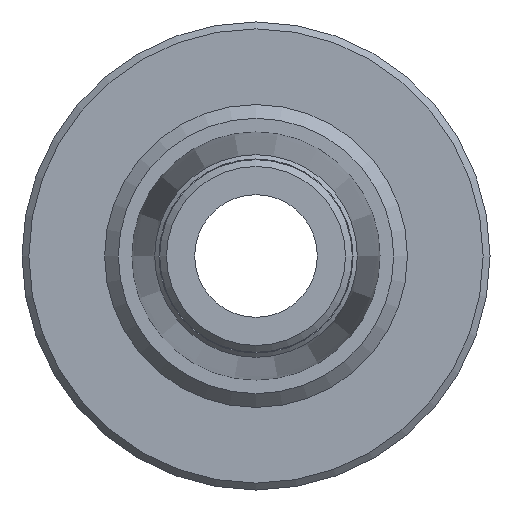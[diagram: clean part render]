
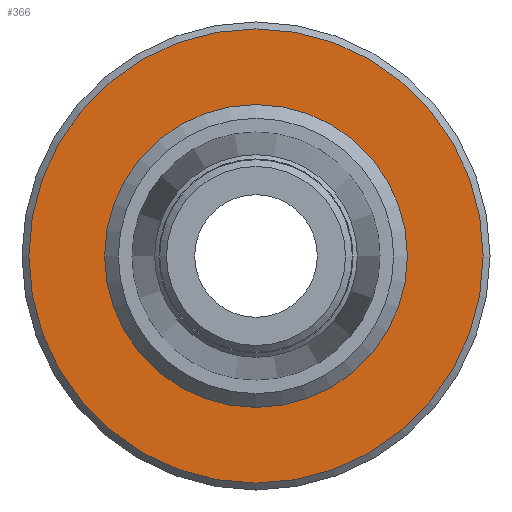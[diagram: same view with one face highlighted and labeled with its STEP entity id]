
A CAD part, left-side view. The second image highlights one B-rep face of the part: STEP entity #366.
In plain terms, the highlighted planar face has unit normal (-1, 0, 0).
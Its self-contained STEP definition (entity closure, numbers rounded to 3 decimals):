
#17=PLANE('',#411);
#42=FACE_BOUND('',#112,.T.);
#77=FACE_OUTER_BOUND('',#111,.T.);
#111=EDGE_LOOP('',(#282));
#112=EDGE_LOOP('',(#283));
#170=CIRCLE('',#410,10.4);
#171=CIRCLE('',#412,16.5);
#205=VERTEX_POINT('',#625);
#206=VERTEX_POINT('',#628);
#240=EDGE_CURVE('',#205,#205,#170,.T.);
#241=EDGE_CURVE('',#206,#206,#171,.T.);
#282=ORIENTED_EDGE('',*,*,#241,.F.);
#283=ORIENTED_EDGE('',*,*,#240,.F.);
#366=ADVANCED_FACE('',(#77,#42),#17,.T.);
#410=AXIS2_PLACEMENT_3D('',#626,#494,#495);
#411=AXIS2_PLACEMENT_3D('',#627,#496,#497);
#412=AXIS2_PLACEMENT_3D('',#629,#498,#499);
#494=DIRECTION('center_axis',(-1.,0.,0.));
#495=DIRECTION('ref_axis',(0.,-1.,0.));
#496=DIRECTION('center_axis',(-1.,0.,0.));
#497=DIRECTION('ref_axis',(0.,0.,1.));
#498=DIRECTION('center_axis',(1.,0.,0.));
#499=DIRECTION('ref_axis',(0.,-1.,0.));
#625=CARTESIAN_POINT('',(23.,10.4,0.));
#626=CARTESIAN_POINT('Origin',(23.,0.,0.));
#627=CARTESIAN_POINT('Origin',(23.,13.5,0.));
#628=CARTESIAN_POINT('',(23.,16.5,0.));
#629=CARTESIAN_POINT('Origin',(23.,0.,0.));
